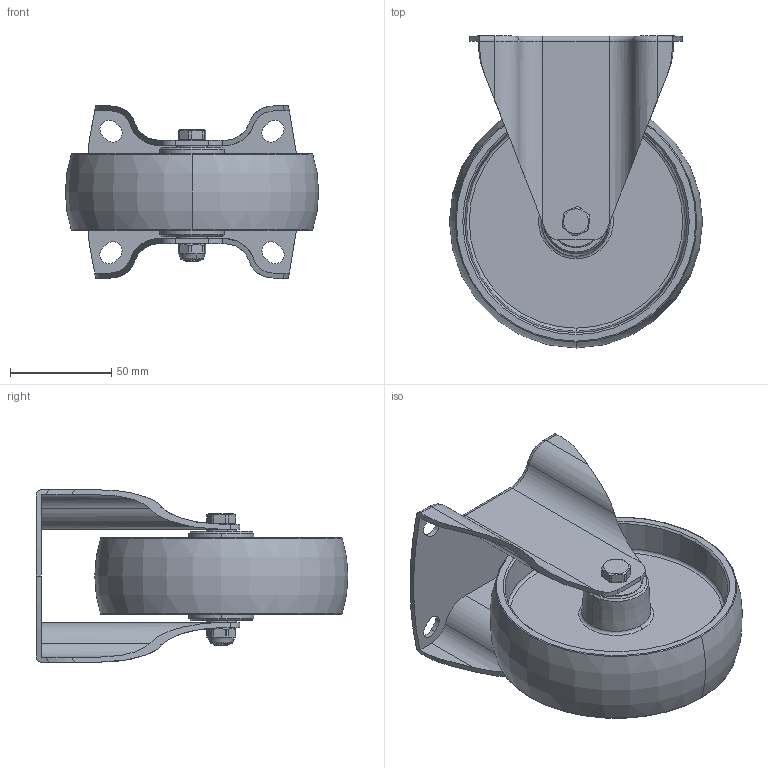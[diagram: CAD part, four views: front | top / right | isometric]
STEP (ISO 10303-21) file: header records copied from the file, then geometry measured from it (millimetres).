
FILE_DESCRIPTION (( 'STEP AP203' ), '1' );
FILE_NAME ('wn8660-fp-125-Wiberger.step', '2026-08-03T06:32:06', ( '' ), ( '' ), 'SwSTEP 2.0', 'SolidWorks 2024', '' );
FILE_SCHEMA (( 'CONFIG_CONTROL_DESIGN' ));
Length unit declared in the file: millimetre
Products named in the file (8): Spacer_9328-RF_9328-RF_Swede-Wheel; Nut_9540806B-RF_9540806B-RF_Swede-Wheel; Hub_3512538152N-HDX_3512538152N-HDX_Swede-Wheel; Screw_9520860B-RF_9520860B-RF_Swede-Wheel; Bracket_5B1266-RF_5B1266-RF_Swede-Wheel; wn8660-fp-125-Wiberger; Wheel_3512538152N-HDX_3512538152N-HDX_Swede-Wheel
Assembly tree (7 placements, depth 3):
  wn8660-fp-125-Wiberger
    Bracket_5B1266-RF_5B1266-RF_Swede-Wheel
    Wheel_3512538152N-HDX_3512538152N-HDX_Swede-Wheel
      Hub_3512538152N-HDX_3512538152N-HDX_Swede-Wheel
    Spacer_9328-RF_9328-RF_Swede-Wheel
      Spacer_9328-RF_9328-RF_Swede-Wheel
    Nut_9540806B-RF_9540806B-RF_Swede-Wheel
    Screw_9520860B-RF_9520860B-RF_Swede-Wheel
Bounding box: 125 x 154 x 85 mm (x, y, z)
Volume: 225371.2 mm3; surface area: 102544.9 mm2
Topology: 5 solids, 5 shells, 354 faces, 824 edges, 490 vertices
Faces by surface type: cylinder 107, cone 93, torus 92, plane 58, bspline 4
Entity records: 11212 total; most frequent: CARTESIAN_POINT 2060, DIRECTION 1962, ORIENTED_EDGE 1648, AXIS2_PLACEMENT_3D 836, EDGE_CURVE 824, VERTEX_POINT 490, CIRCLE 474, EDGE_LOOP 382
